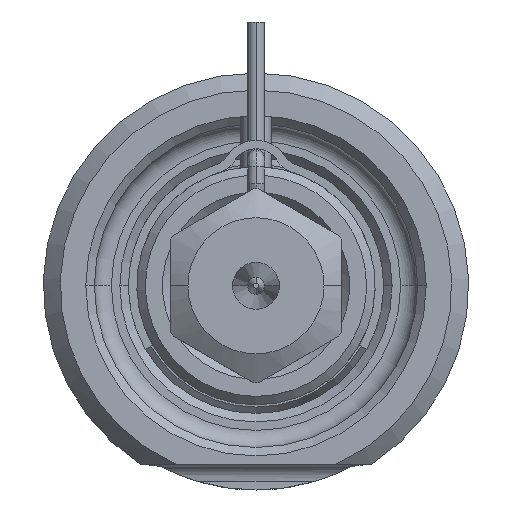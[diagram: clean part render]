
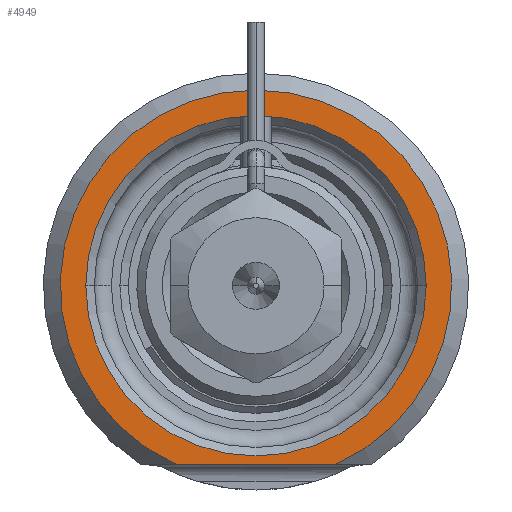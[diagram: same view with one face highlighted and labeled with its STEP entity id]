
A CAD part, front view. The second image highlights one B-rep face of the part: STEP entity #4949.
In plain terms, the highlighted planar face has unit normal (0, -1, 0).
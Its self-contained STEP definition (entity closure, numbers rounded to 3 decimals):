
#1183=CARTESIAN_POINT('',(0.,0.,0.));
#1184=DIRECTION('',(0.,-1.,0.));
#1185=DIRECTION('',(0.408,0.,-0.913));
#1186=AXIS2_PLACEMENT_3D('',#1183,#1184,#1185);
#1207=DIRECTION('',(1.,0.,0.));
#1208=VECTOR('',#1207,9.381);
#1209=CARTESIAN_POINT('',(-4.69,0.,-10.5));
#1210=LINE('',#1209,#1208);
#1211=CARTESIAN_POINT('',(0.,0.,0.));
#1212=DIRECTION('',(0.,1.,0.));
#1213=DIRECTION('',(-1.,0.,0.));
#1214=AXIS2_PLACEMENT_3D('',#1211,#1212,#1213);
#1216=CARTESIAN_POINT('',(0.,0.,0.));
#1217=DIRECTION('',(0.,1.,0.));
#1218=DIRECTION('',(1.,0.,0.));
#1219=AXIS2_PLACEMENT_3D('',#1216,#1217,#1218);
#3221=CARTESIAN_POINT('',(-10.,0.,0.));
#3222=CARTESIAN_POINT('',(10.,0.,0.));
#3223=VERTEX_POINT('',#3221);
#3224=VERTEX_POINT('',#3222);
#3265=CARTESIAN_POINT('',(-4.69,0.,-10.5));
#3266=CARTESIAN_POINT('',(4.69,0.,-10.5));
#3267=VERTEX_POINT('',#3265);
#3268=VERTEX_POINT('',#3266);
#4934=CARTESIAN_POINT('',(0.,0.,0.));
#4935=DIRECTION('',(0.,-1.,0.));
#4936=DIRECTION('',(1.,0.,0.));
#4937=AXIS2_PLACEMENT_3D('',#4934,#4935,#4936);
#4938=PLANE('',#4937);
#4939=ORIENTED_EDGE('',*,*,#4869,.F.);
#4940=ORIENTED_EDGE('',*,*,#4926,.F.);
#4941=EDGE_LOOP('',(#4939,#4940));
#4942=FACE_OUTER_BOUND('',#4941,.F.);
#4944=ORIENTED_EDGE('',*,*,#4943,.F.);
#4946=ORIENTED_EDGE('',*,*,#4945,.F.);
#4947=EDGE_LOOP('',(#4944,#4946));
#4948=FACE_BOUND('',#4947,.F.);
#4949=ADVANCED_FACE('',(#4942,#4948),#4938,.T.);
#1187=CIRCLE('',#1186,11.5);
#1215=CIRCLE('',#1214,10.);
#1220=CIRCLE('',#1219,10.);
#4869=EDGE_CURVE('',#3267,#3268,#1210,.T.);
#4926=EDGE_CURVE('',#3268,#3267,#1187,.T.);
#4943=EDGE_CURVE('',#3223,#3224,#1215,.T.);
#4945=EDGE_CURVE('',#3224,#3223,#1220,.T.);
